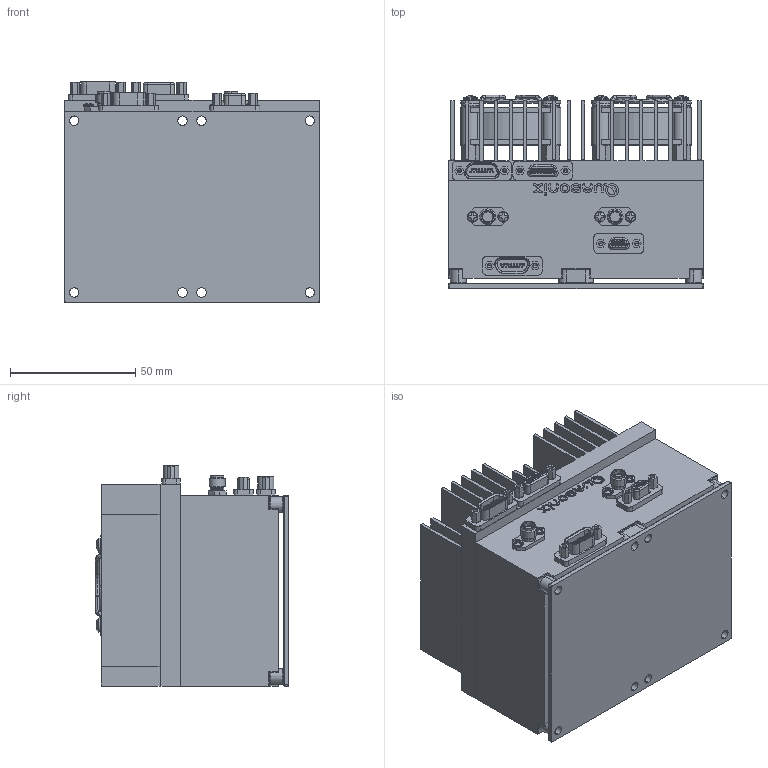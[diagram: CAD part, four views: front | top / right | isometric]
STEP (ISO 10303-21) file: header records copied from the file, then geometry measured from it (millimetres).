
FILE_DESCRIPTION (( 'STEP AP203' ), '1' );
FILE_NAME ('Dual_Heat_Sink_Assy_18_Package_Size.STEP', '2022-06-05T13:29:49', ( '' ), ( '' ), 'SwSTEP 2.0', 'SolidWorks 2021', '' );
FILE_SCHEMA (( 'CONFIG_CONTROL_DESIGN' ));
Length unit declared in the file: millimetre
Products named in the file (12): JackPosts^QS-ACC056_Simplified; FanGuard^QS-ACC056_Simplified_19155K91; MDM-15(M)^QS-ACC056_Simplified; MDM-15(F)^QS-ACC056_Simplified; Fan^QS-ACC056_Simplified; 18AG; StandOff^QS-ACC056_Simplified_91075A430; #4Washer^QS-ACC056_Simplified_92141A005; HeatSink^QS-ACC056_Simplified; BasePlate^QS-ACC056_Simplified; Dual_Heat_Sink_Assy_18_Package_Size; #4Screw^QS-ACC056_Simplified_91772A114
Assembly tree (37 placements, depth 2):
  Dual_Heat_Sink_Assy_18_Package_Size
    HeatSink^QS-ACC056_Simplified
    StandOff^QS-ACC056_Simplified_91075A430  x8
    #4Screw^QS-ACC056_Simplified_91772A114  x8
    #4Washer^QS-ACC056_Simplified_92141A005  x8
    Fan^QS-ACC056_Simplified  x2
    FanGuard^QS-ACC056_Simplified_19155K91  x2
    MDM-15(M)^QS-ACC056_Simplified
    MDM-15(F)^QS-ACC056_Simplified
    JackPosts^QS-ACC056_Simplified  x4
    BasePlate^QS-ACC056_Simplified
    18AG
Bounding box: 101.6 x 77.06 x 87.83 mm (x, y, z)
Volume: 432391.6 mm3; surface area: 145219.9 mm2
Topology: 72 solids, 72 shells, 2870 faces, 7041 edges, 4498 vertices
Faces by surface type: plane 1204, cylinder 963, cone 310, torus 218, bspline 151, sphere 24
Entity records: 67698 total; most frequent: CARTESIAN_POINT 17929, DIRECTION 9942, ORIENTED_EDGE 9868, EDGE_CURVE 4934, AXIS2_PLACEMENT_3D 3615, VERTEX_POINT 3186, LINE 2712, VECTOR 2712
